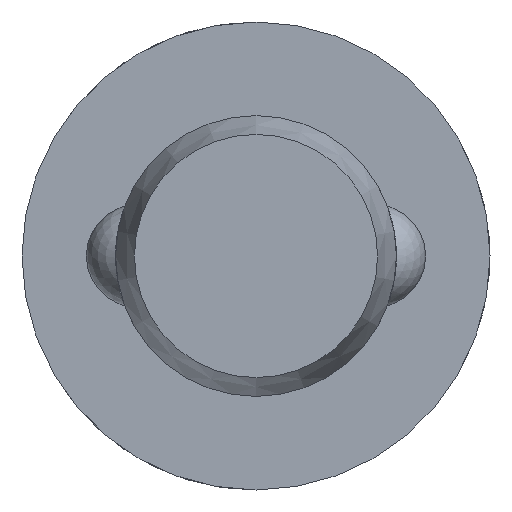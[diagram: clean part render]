
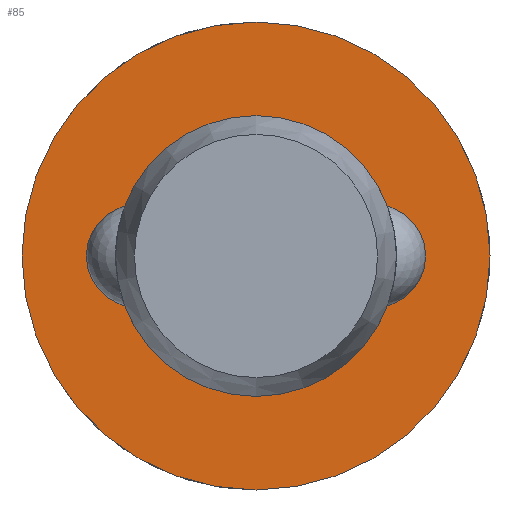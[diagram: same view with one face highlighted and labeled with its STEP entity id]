
A CAD part, left-side view. The second image highlights one B-rep face of the part: STEP entity #85.
In plain terms, the highlighted planar face has unit normal (-1, 0, 0).
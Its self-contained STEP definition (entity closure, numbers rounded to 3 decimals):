
#85 = ADVANCED_FACE( '', ( #130, #131 ), #132, .F. );
#130 = FACE_OUTER_BOUND( '', #201, .T. );
#131 = FACE_BOUND( '', #202, .T. );
#132 = PLANE( '', #203 );
#201 = EDGE_LOOP( '', ( #317 ) );
#202 = EDGE_LOOP( '', ( #318 ) );
#203 = AXIS2_PLACEMENT_3D( '', #319, #320, #321 );
#317 = ORIENTED_EDGE( '', *, *, #461, .F. );
#318 = ORIENTED_EDGE( '', *, *, #458, .T. );
#319 = CARTESIAN_POINT( '', ( 30.6, 6., 0. ) );
#320 = DIRECTION( '', ( 1., 0., 0. ) );
#321 = DIRECTION( '', ( 0., 0., -1. ) );
#458 = EDGE_CURVE( '', #532, #532, #533, .T. );
#461 = EDGE_CURVE( '', #538, #538, #539, .T. );
#532 = VERTEX_POINT( '', #742 );
#533 = CIRCLE( '', #743, 6. );
#538 = VERTEX_POINT( '', #858 );
#539 = CIRCLE( '', #859, 10. );
#742 = CARTESIAN_POINT( '', ( 30.6, 0., -6. ) );
#743 = AXIS2_PLACEMENT_3D( '', #936, #937, #938 );
#858 = CARTESIAN_POINT( '', ( 30.6, 0., -10. ) );
#859 = AXIS2_PLACEMENT_3D( '', #939, #940, #941 );
#936 = CARTESIAN_POINT( '', ( 30.6, 0., 0. ) );
#937 = DIRECTION( '', ( 1., 0., 0. ) );
#938 = DIRECTION( '', ( 0., 0., -1. ) );
#939 = CARTESIAN_POINT( '', ( 30.6, 0., 0. ) );
#940 = DIRECTION( '', ( 1., 0., 0. ) );
#941 = DIRECTION( '', ( 0., 0., -1. ) );
